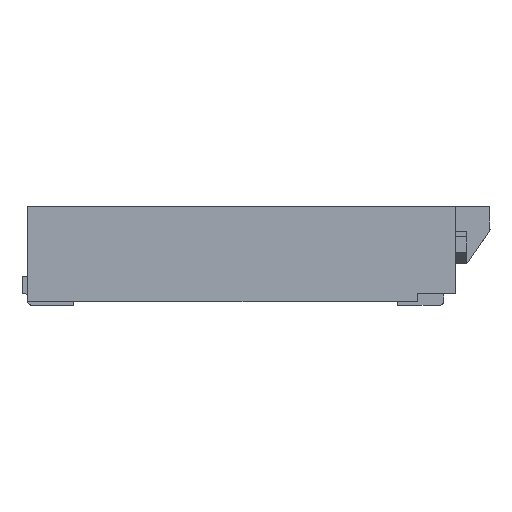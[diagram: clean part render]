
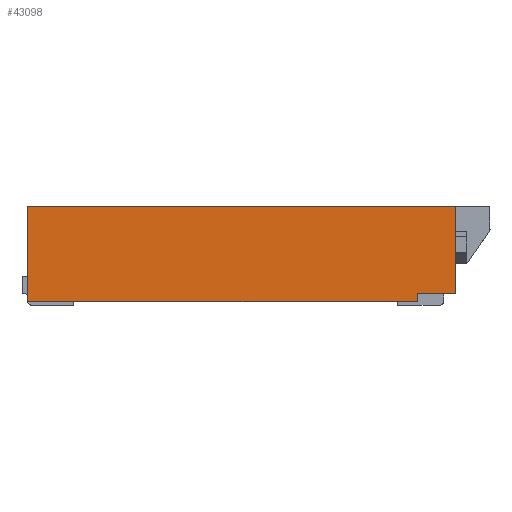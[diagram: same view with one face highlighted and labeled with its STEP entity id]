
A CAD part, left-side view. The second image highlights one B-rep face of the part: STEP entity #43098.
In plain terms, the highlighted planar face has unit normal (-1, 0, 0).
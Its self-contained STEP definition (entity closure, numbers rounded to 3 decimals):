
#578 = CARTESIAN_POINT ( 'NONE',  ( -5.3, -3.7, -0.82 ) ) ;
#1486 = CARTESIAN_POINT ( 'NONE',  ( -5.3, -3.7, -0.75 ) ) ;
#1876 = AXIS2_PLACEMENT_3D ( 'NONE', #8253, #3595, #44486 ) ;
#2052 = CARTESIAN_POINT ( 'NONE',  ( -5.3, -3.7, 0. ) ) ;
#2327 = ORIENTED_EDGE ( 'NONE', *, *, #33206, .T. ) ;
#2703 = CARTESIAN_POINT ( 'NONE',  ( -5.3, -3.37, -0.797 ) ) ;
#3595 = DIRECTION ( 'NONE',  ( 1., 0., 0. ) ) ;
#3923 = EDGE_CURVE ( 'NONE', #18690, #39381, #14733, .T. ) ;
#5893 = VERTEX_POINT ( 'NONE', #24476 ) ;
#6167 = LINE ( 'NONE', #1486, #37546 ) ;
#6243 = ORIENTED_EDGE ( 'NONE', *, *, #32418, .T. ) ;
#6555 = DIRECTION ( 'NONE',  ( 0., 0., 1. ) ) ;
#6738 = LINE ( 'NONE', #2052, #34442 ) ;
#7390 = CARTESIAN_POINT ( 'NONE',  ( -5.3, -3.37, -0.773 ) ) ;
#7619 = VERTEX_POINT ( 'NONE', #19635 ) ;
#8253 = CARTESIAN_POINT ( 'NONE',  ( -5.3, -3.7, 0. ) ) ;
#8319 = VERTEX_POINT ( 'NONE', #17616 ) ;
#8490 = ORIENTED_EDGE ( 'NONE', *, *, #43949, .F. ) ;
#11270 = CARTESIAN_POINT ( 'NONE',  ( -5.3, 0., 0. ) ) ;
#12096 = CARTESIAN_POINT ( 'NONE',  ( -5.3, -3.37, -0.75 ) ) ;
#12222 = FACE_OUTER_BOUND ( 'NONE', #33130, .T. ) ;
#12982 = PLANE ( 'NONE',  #1876 ) ;
#13457 = EDGE_CURVE ( 'NONE', #39381, #40320, #16000, .T. ) ;
#14733 = LINE ( 'NONE', #578, #16328 ) ;
#16000 = LINE ( 'NONE', #11270, #43849 ) ;
#16328 = VECTOR ( 'NONE', #41561, 1000. ) ;
#17476 = DIRECTION ( 'NONE',  ( 0., 1., 0. ) ) ;
#17616 = CARTESIAN_POINT ( 'NONE',  ( -5.3, -3.7, -0.75 ) ) ;
#18638 = ORIENTED_EDGE ( 'NONE', *, *, #19516, .T. ) ;
#18690 = VERTEX_POINT ( 'NONE', #45417 ) ;
#19135 = ORIENTED_EDGE ( 'NONE', *, *, #13457, .F. ) ;
#19516 = EDGE_CURVE ( 'NONE', #7619, #40320, #26860, .T. ) ;
#19635 = CARTESIAN_POINT ( 'NONE',  ( -5.3, -3.7, 0. ) ) ;
#22173 = CARTESIAN_POINT ( 'NONE',  ( -5.3, -3.7, 0. ) ) ;
#24476 = CARTESIAN_POINT ( 'NONE',  ( -5.3, -3.37, -0.75 ) ) ;
#26860 = LINE ( 'NONE', #22173, #34736 ) ;
#27168 = CARTESIAN_POINT ( 'NONE',  ( -5.3, 0., -0.82 ) ) ;
#30489 = B_SPLINE_CURVE_WITH_KNOTS ( 'NONE', 3,
 ( #12096, #7390, #2703, #43601 ),
 .UNSPECIFIED., .F., .F.,
 ( 4, 4 ),
 ( 0., 1. ),
 .UNSPECIFIED. ) ;
#32418 = EDGE_CURVE ( 'NONE', #5893, #8319, #6167, .T. ) ;
#32595 = CARTESIAN_POINT ( 'NONE',  ( -5.3, 0., 0. ) ) ;
#33130 = EDGE_LOOP ( 'NONE', ( #2327, #18638, #19135, #42436, #8490, #6243 ) ) ;
#33206 = EDGE_CURVE ( 'NONE', #8319, #7619, #6738, .T. ) ;
#34442 = VECTOR ( 'NONE', #42998, 1000. ) ;
#34736 = VECTOR ( 'NONE', #17476, 1000. ) ;
#37546 = VECTOR ( 'NONE', #42456, 1000. ) ;
#39381 = VERTEX_POINT ( 'NONE', #27168 ) ;
#40320 = VERTEX_POINT ( 'NONE', #32595 ) ;
#41561 = DIRECTION ( 'NONE',  ( 0., 1., 0. ) ) ;
#42436 = ORIENTED_EDGE ( 'NONE', *, *, #3923, .F. ) ;
#42456 = DIRECTION ( 'NONE',  ( 0., -1., 0. ) ) ;
#42998 = DIRECTION ( 'NONE',  ( 0., 0., 1. ) ) ;
#43098 = ADVANCED_FACE ( 'NONE', ( #12222 ), #12982, .F. ) ;
#43601 = CARTESIAN_POINT ( 'NONE',  ( -5.3, -3.37, -0.82 ) ) ;
#43849 = VECTOR ( 'NONE', #6555, 1000. ) ;
#43949 = EDGE_CURVE ( 'NONE', #5893, #18690, #30489, .T. ) ;
#44486 = DIRECTION ( 'NONE',  ( 0., 0., 1. ) ) ;
#45417 = CARTESIAN_POINT ( 'NONE',  ( -5.3, -3.37, -0.82 ) ) ;
